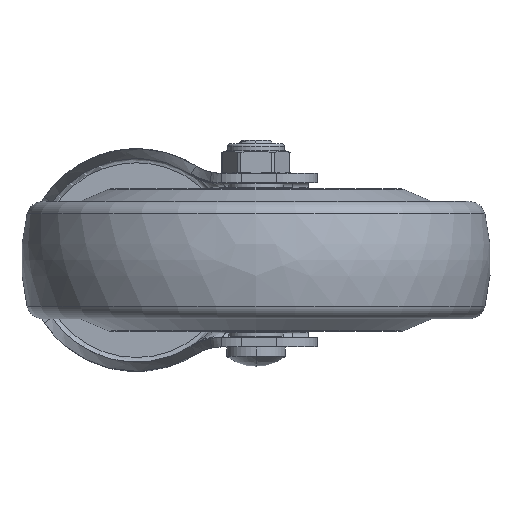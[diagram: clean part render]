
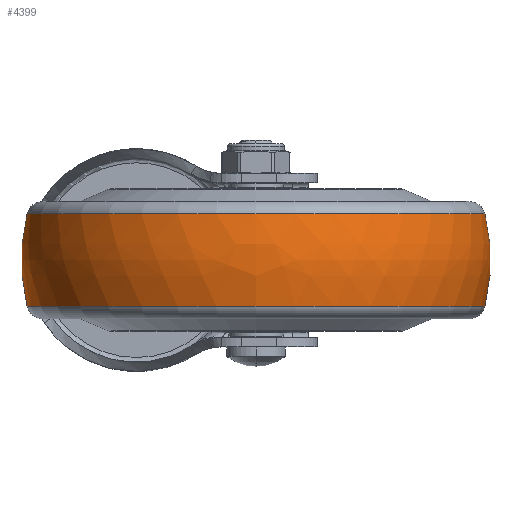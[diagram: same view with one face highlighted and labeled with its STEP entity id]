
A CAD part, front view. The second image highlights one B-rep face of the part: STEP entity #4399.
In plain terms, the highlighted free-form (B-spline) face has degree [3, 3] with [7, 4] control points.
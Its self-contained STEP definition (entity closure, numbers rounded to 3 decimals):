
#3901=CARTESIAN_POINT('',(0.,10.,0.));
#3902=DIRECTION('',(0.,0.,1.));
#3903=DIRECTION('',(0.247,0.969,0.));
#3904=AXIS2_PLACEMENT_3D('',#3901,#3902,#3903);
#3906=CARTESIAN_POINT('',(0.,-10.,0.));
#3907=DIRECTION('',(0.,0.,-1.));
#3908=DIRECTION('',(0.247,-0.969,0.));
#3909=AXIS2_PLACEMENT_3D('',#3906,#3907,#3908);
#3911=CARTESIAN_POINT('',(9.863,0.,0.));
#3912=DIRECTION('',(-1.,0.,0.));
#3913=DIRECTION('',(0.,1.,0.));
#3914=AXIS2_PLACEMENT_3D('',#3911,#3912,#3913);
#3936=CARTESIAN_POINT('',(-9.863,0.,0.));
#3937=DIRECTION('',(-1.,0.,0.));
#3938=DIRECTION('',(0.,1.,0.));
#3939=AXIS2_PLACEMENT_3D('',#3936,#3937,#3938);
#4090=CARTESIAN_POINT('',(9.863,48.765,0.));
#4092=VERTEX_POINT('',#4090);
#4093=CARTESIAN_POINT('',(-9.863,48.765,0.));
#4094=VERTEX_POINT('',#4093);
#4130=CARTESIAN_POINT('',(9.863,-48.765,
0.));
#4132=VERTEX_POINT('',#4130);
#4133=CARTESIAN_POINT('',(-9.863,-48.765,
0.));
#4134=VERTEX_POINT('',#4133);
#4361=CARTESIAN_POINT('',(-10.249,-48.569,
3.056));
#4362=CARTESIAN_POINT('',(-3.494,-50.356,
3.168));
#4363=CARTESIAN_POINT('',(3.494,-50.356,3.168));
#4364=CARTESIAN_POINT('',(10.249,-48.569,3.056));
#4365=CARTESIAN_POINT('',(-10.249,-50.449,
-26.833));
#4366=CARTESIAN_POINT('',(-3.494,-52.305,
-27.821));
#4367=CARTESIAN_POINT('',(3.494,-52.305,
-27.821));
#4368=CARTESIAN_POINT('',(10.249,-50.449,
-26.833));
#4369=CARTESIAN_POINT('',(-10.249,-29.948,
-48.665));
#4370=CARTESIAN_POINT('',(-3.494,-31.05,
-50.455));
#4371=CARTESIAN_POINT('',(3.494,-31.05,
-50.455));
#4372=CARTESIAN_POINT('',(10.249,-29.948,
-48.665));
#4373=CARTESIAN_POINT('',(-10.249,0.,
-48.665));
#4374=CARTESIAN_POINT('',(-3.494,0.,
-50.455));
#4375=CARTESIAN_POINT('',(3.494,0.,
-50.455));
#4376=CARTESIAN_POINT('',(10.249,0.,
-48.665));
#4377=CARTESIAN_POINT('',(-10.249,29.948,
-48.665));
#4378=CARTESIAN_POINT('',(-3.494,31.05,
-50.455));
#4379=CARTESIAN_POINT('',(3.494,31.05,-50.455));
#4380=CARTESIAN_POINT('',(10.249,29.948,-48.665));
#4381=CARTESIAN_POINT('',(-10.249,50.449,
-26.833));
#4382=CARTESIAN_POINT('',(-3.494,52.305,
-27.821));
#4383=CARTESIAN_POINT('',(3.494,52.305,-27.821));
#4384=CARTESIAN_POINT('',(10.249,50.449,-26.833));
#4385=CARTESIAN_POINT('',(-10.249,48.569,3.056));
#4386=CARTESIAN_POINT('',(-3.494,50.356,3.168));
#4387=CARTESIAN_POINT('',(3.494,50.356,3.168));
#4388=CARTESIAN_POINT('',(10.249,48.569,3.056));
#4389=(BOUNDED_SURFACE()B_SPLINE_SURFACE(3,3,((#4361,#4362,#4363,#4364),(#4365,
#4366,#4367,#4368),(#4369,#4370,#4371,#4372),(#4373,#4374,#4375,#4376),(#4377,
#4378,#4379,#4380),(#4381,#4382,#4383,#4384),(#4385,#4386,#4387,#4388)),
.UNSPECIFIED.,.F.,.F.,.F.)B_SPLINE_SURFACE_WITH_KNOTS((4,3,4),(4,4),(0.,1.,
2.),(0.,1.),.UNSPECIFIED.)GEOMETRIC_REPRESENTATION_ITEM()RATIONAL_B_SPLINE_SURFACE(((1.207,1.181,1.181,1.207),(
0.953,0.932,0.932,0.953),(
0.953,0.932,0.932,0.953),(
1.207,1.181,1.181,1.207),(
0.953,0.932,0.932,0.953),(
0.953,0.932,0.932,0.953),(
1.207,1.181,1.181,1.207)))REPRESENTATION_ITEM('')SURFACE());
#4391=ORIENTED_EDGE('',*,*,#4390,.T.);
#4393=ORIENTED_EDGE('',*,*,#4392,.T.);
#4395=ORIENTED_EDGE('',*,*,#4394,.F.);
#4396=ORIENTED_EDGE('',*,*,#4354,.F.);
#4397=EDGE_LOOP('',(#4391,#4393,#4395,#4396));
#4398=FACE_OUTER_BOUND('',#4397,.F.);
#3905=CIRCLE('',#3904,40.);
#3910=CIRCLE('',#3909,40.);
#3915=CIRCLE('',#3914,48.765);
#3940=CIRCLE('',#3939,48.765);
#4354=EDGE_CURVE('',#4092,#4132,#3915,.T.);
#4390=EDGE_CURVE('',#4092,#4094,#3905,.T.);
#4392=EDGE_CURVE('',#4094,#4134,#3940,.T.);
#4394=EDGE_CURVE('',#4132,#4134,#3910,.T.);
#4399=ADVANCED_FACE('',(#4398),#4389,.T.);
